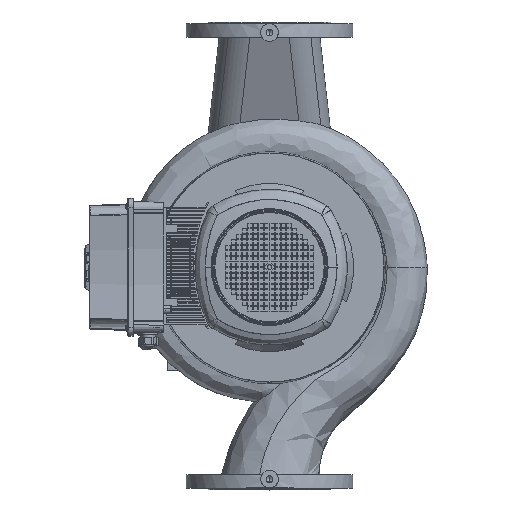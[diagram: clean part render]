
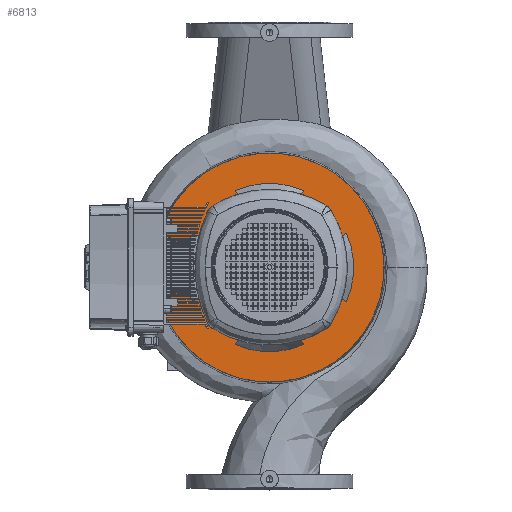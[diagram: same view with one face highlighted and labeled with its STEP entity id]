
A CAD part, top view. The second image highlights one B-rep face of the part: STEP entity #6813.
In plain terms, the highlighted planar face has unit normal (0, 0, 1) as drawn and (1, 0, 0) by its records, which use the part's own axes.
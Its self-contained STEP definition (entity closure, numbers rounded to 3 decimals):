
#6813=ADVANCED_FACE('',(#17506,#17507),#17508,.T.);
#6837=EDGE_CURVE('',#17547,#17548,#17549,.T.);
#6861=EDGE_CURVE('',#17591,#17592,#17593,.T.);
#6869=EDGE_CURVE('',#17601,#17604,#17605,.T.);
#6877=EDGE_CURVE('',#17613,#17616,#17617,.T.);
#6883=EDGE_CURVE('',#17620,#17592,#17625,.T.);
#6885=EDGE_CURVE('',#17627,#17604,#17628,.T.);
#6893=EDGE_CURVE('',#17639,#17635,#17640,.T.);
#6901=EDGE_CURVE('',#17650,#17646,#17651,.T.);
#6909=EDGE_CURVE('',#17657,#17660,#17661,.T.);
#6919=EDGE_CURVE('',#17671,#17601,#17674,.T.);
#6925=EDGE_CURVE('',#17679,#17613,#17682,.T.);
#6933=EDGE_CURVE('',#17690,#17685,#17693,.T.);
#6935=EDGE_CURVE('',#17616,#17635,#17695,.T.);
#6939=EDGE_CURVE('',#17685,#17646,#17699,.T.);
#6943=EDGE_CURVE('',#17660,#17591,#17703,.T.);
#6947=EDGE_CURVE('',#17627,#17679,#17707,.T.);
#6951=EDGE_CURVE('',#17639,#17690,#17711,.T.);
#6953=EDGE_CURVE('',#17620,#17671,#17713,.T.);
#6957=EDGE_CURVE('',#17548,#17547,#17717,.T.);
#6959=EDGE_CURVE('',#17650,#17657,#17719,.T.);
#17506=FACE_OUTER_BOUND('',#33185,.T.);
#17507=FACE_BOUND('',#33186,.T.);
#17508=PLANE('',#33187);
#17547=VERTEX_POINT('',#33228);
#17548=VERTEX_POINT('',#33229);
#17549=CIRCLE('',#33230,196.0);
#17591=VERTEX_POINT('',#33284);
#17592=VERTEX_POINT('',#33285);
#17593=CIRCLE('',#33286,132.799);
#17601=VERTEX_POINT('',#33306);
#17604=VERTEX_POINT('',#33319);
#17605=CIRCLE('',#33320,132.799);
#17613=VERTEX_POINT('',#33340);
#17616=VERTEX_POINT('',#33353);
#17617=CIRCLE('',#33354,132.799);
#17620=VERTEX_POINT('',#33358);
#17625=LINE('',#33375,#33376);
#17627=VERTEX_POINT('',#33379);
#17628=LINE('',#33380,#33381);
#17635=VERTEX_POINT('',#33401);
#17639=VERTEX_POINT('',#33415);
#17640=LINE('',#33416,#33417);
#17646=VERTEX_POINT('',#33436);
#17650=VERTEX_POINT('',#33450);
#17651=LINE('',#33451,#33452);
#17657=VERTEX_POINT('',#33471);
#17660=VERTEX_POINT('',#33484);
#17661=LINE('',#33485,#33486);
#17671=VERTEX_POINT('',#33511);
#17674=LINE('',#33524,#33525);
#17679=VERTEX_POINT('',#33533);
#17682=LINE('',#33546,#33547);
#17685=VERTEX_POINT('',#33551);
#17690=VERTEX_POINT('',#33568);
#17693=LINE('',#33581,#33582);
#17695=CIRCLE('',#33585,132.799);
#17699=CIRCLE('',#33591,132.799);
#17703=CIRCLE('',#33597,132.799);
#17707=CIRCLE('',#33603,144.0);
#17711=CIRCLE('',#33609,144.0);
#17713=CIRCLE('',#33612,144.0);
#17717=CIRCLE('',#33618,196.0);
#17719=CIRCLE('',#33621,144.0);
#33185=EDGE_LOOP('',(#59932,#59933));
#33186=EDGE_LOOP('',(#59934,#59935,#59936,#59937,#59938,#59939,#59940,#59941,#59942,#59943,#59944,#59945,#59946,#59947,#59948,#59949,#59950,#59951));
#33187=AXIS2_PLACEMENT_3D('',#59952,#59953,#59954);
#33228=CARTESIAN_POINT('',(20.0,196.0,0.0));
#33229=CARTESIAN_POINT('',(20.0,-196.0,0.));
#33230=AXIS2_PLACEMENT_3D('',#60054,#60055,#60056);
#33284=CARTESIAN_POINT('',(20.0,-132.799,0.));
#33285=CARTESIAN_POINT('',(20.0,-123.51,-48.794));
#33286=AXIS2_PLACEMENT_3D('',#60090,#60091,#60092);
#33306=CARTESIAN_POINT('',(20.0,-48.794,-123.51));
#33319=CARTESIAN_POINT('',(20.0,48.794,-123.51));
#33320=AXIS2_PLACEMENT_3D('',#60096,#60097,#60098);
#33340=CARTESIAN_POINT('',(20.0,123.51,-48.794));
#33353=CARTESIAN_POINT('',(20.0,132.799,0.));
#33354=AXIS2_PLACEMENT_3D('',#60102,#60103,#60104);
#33358=CARTESIAN_POINT('',(20.0,-134.395,-51.711));
#33375=CARTESIAN_POINT('',(20.0,-134.395,-51.711));
#33376=VECTOR('',#60106,1.0);
#33379=CARTESIAN_POINT('',(20.0,51.711,-134.395));
#33380=CARTESIAN_POINT('',(20.0,51.711,-134.395));
#33381=VECTOR('',#60107,1.0);
#33401=CARTESIAN_POINT('',(20.0,123.51,48.794));
#33415=CARTESIAN_POINT('',(20.0,134.395,51.711));
#33416=CARTESIAN_POINT('',(20.0,134.395,51.711));
#33417=VECTOR('',#60109,1.0);
#33436=CARTESIAN_POINT('',(20.0,-48.794,123.51));
#33450=CARTESIAN_POINT('',(20.0,-51.711,134.395));
#33451=CARTESIAN_POINT('',(20.0,-51.711,134.395));
#33452=VECTOR('',#60111,1.0);
#33471=CARTESIAN_POINT('',(20.0,-134.395,51.711));
#33484=CARTESIAN_POINT('',(20.0,-123.51,48.794));
#33485=CARTESIAN_POINT('',(20.0,-134.395,51.711));
#33486=VECTOR('',#60113,1.0);
#33511=CARTESIAN_POINT('',(20.0,-51.711,-134.395));
#33524=CARTESIAN_POINT('',(20.0,-51.711,-134.395));
#33525=VECTOR('',#60116,1.0);
#33533=CARTESIAN_POINT('',(20.0,134.395,-51.711));
#33546=CARTESIAN_POINT('',(20.0,134.395,-51.711));
#33547=VECTOR('',#60118,1.0);
#33551=CARTESIAN_POINT('',(20.0,48.794,123.51));
#33568=CARTESIAN_POINT('',(20.0,51.711,134.395));
#33581=CARTESIAN_POINT('',(20.0,51.711,134.395));
#33582=VECTOR('',#60120,1.0);
#33585=AXIS2_PLACEMENT_3D('',#60121,#60122,#60123);
#33591=AXIS2_PLACEMENT_3D('',#60127,#60128,#60129);
#33597=AXIS2_PLACEMENT_3D('',#60133,#60134,#60135);
#33603=AXIS2_PLACEMENT_3D('',#60139,#60140,#60141);
#33609=AXIS2_PLACEMENT_3D('',#60145,#60146,#60147);
#33612=AXIS2_PLACEMENT_3D('',#60148,#60149,#60150);
#33618=AXIS2_PLACEMENT_3D('',#60154,#60155,#60156);
#33621=AXIS2_PLACEMENT_3D('',#60157,#60158,#60159);
#59932=ORIENTED_EDGE('',*,*,#6837,.T.);
#59933=ORIENTED_EDGE('',*,*,#6957,.T.);
#59934=ORIENTED_EDGE('',*,*,#6959,.F.);
#59935=ORIENTED_EDGE('',*,*,#6901,.T.);
#59936=ORIENTED_EDGE('',*,*,#6939,.F.);
#59937=ORIENTED_EDGE('',*,*,#6933,.F.);
#59938=ORIENTED_EDGE('',*,*,#6951,.F.);
#59939=ORIENTED_EDGE('',*,*,#6893,.T.);
#59940=ORIENTED_EDGE('',*,*,#6935,.F.);
#59941=ORIENTED_EDGE('',*,*,#6877,.F.);
#59942=ORIENTED_EDGE('',*,*,#6925,.F.);
#59943=ORIENTED_EDGE('',*,*,#6947,.F.);
#59944=ORIENTED_EDGE('',*,*,#6885,.T.);
#59945=ORIENTED_EDGE('',*,*,#6869,.F.);
#59946=ORIENTED_EDGE('',*,*,#6919,.F.);
#59947=ORIENTED_EDGE('',*,*,#6953,.F.);
#59948=ORIENTED_EDGE('',*,*,#6883,.T.);
#59949=ORIENTED_EDGE('',*,*,#6861,.F.);
#59950=ORIENTED_EDGE('',*,*,#6943,.F.);
#59951=ORIENTED_EDGE('',*,*,#6909,.F.);
#59952=CARTESIAN_POINT('',(20.0,170.0,0.0));
#59953=DIRECTION('',(1.0,0.0,0.0));
#59954=DIRECTION('',(0.0,0.0,-1.0));
#60054=CARTESIAN_POINT('',(20.0,0.0,0.0));
#60055=DIRECTION('',(1.0,0.0,0.0));
#60056=DIRECTION('',(0.0,1.0,0.0));
#60090=CARTESIAN_POINT('',(20.0,0.0,0.0));
#60091=DIRECTION('',(1.0,0.0,-0.0));
#60092=DIRECTION('',(0.0,1.0,0.));
#60096=CARTESIAN_POINT('',(20.0,0.0,0.0));
#60097=DIRECTION('',(1.0,0.0,-0.0));
#60098=DIRECTION('',(0.0,1.0,0.));
#60102=CARTESIAN_POINT('',(20.0,0.0,0.0));
#60103=DIRECTION('',(1.0,0.0,-0.0));
#60104=DIRECTION('',(0.0,1.0,0.));
#60106=DIRECTION('',(0.,0.966,0.259));
#60107=DIRECTION('',(0.,-0.259,0.966));
#60109=DIRECTION('',(0.,-0.966,-0.259));
#60111=DIRECTION('',(0.,0.259,-0.966));
#60113=DIRECTION('',(0.,0.966,-0.259));
#60116=DIRECTION('',(0.,0.259,0.966));
#60118=DIRECTION('',(0.,-0.966,0.259));
#60120=DIRECTION('',(0.,-0.259,-0.966));
#60121=CARTESIAN_POINT('',(20.0,0.0,0.0));
#60122=DIRECTION('',(1.0,0.0,-0.0));
#60123=DIRECTION('',(0.0,1.0,0.));
#60127=CARTESIAN_POINT('',(20.0,0.0,0.0));
#60128=DIRECTION('',(1.0,0.0,-0.0));
#60129=DIRECTION('',(0.0,1.0,0.));
#60133=CARTESIAN_POINT('',(20.0,0.0,0.0));
#60134=DIRECTION('',(1.0,0.0,-0.0));
#60135=DIRECTION('',(0.0,1.0,0.));
#60139=CARTESIAN_POINT('',(20.0,0.0,0.0));
#60140=DIRECTION('',(1.0,0.0,0.0));
#60141=DIRECTION('',(0.0,1.0,0.0));
#60145=CARTESIAN_POINT('',(20.0,0.0,0.0));
#60146=DIRECTION('',(1.0,0.0,0.0));
#60147=DIRECTION('',(0.0,1.0,0.0));
#60148=CARTESIAN_POINT('',(20.0,0.0,0.0));
#60149=DIRECTION('',(1.0,0.0,0.0));
#60150=DIRECTION('',(0.0,1.0,0.0));
#60154=CARTESIAN_POINT('',(20.0,0.0,0.0));
#60155=DIRECTION('',(1.0,0.0,0.0));
#60156=DIRECTION('',(0.0,1.0,0.0));
#60157=CARTESIAN_POINT('',(20.0,0.0,0.0));
#60158=DIRECTION('',(1.0,0.0,0.0));
#60159=DIRECTION('',(0.0,1.0,0.0));
